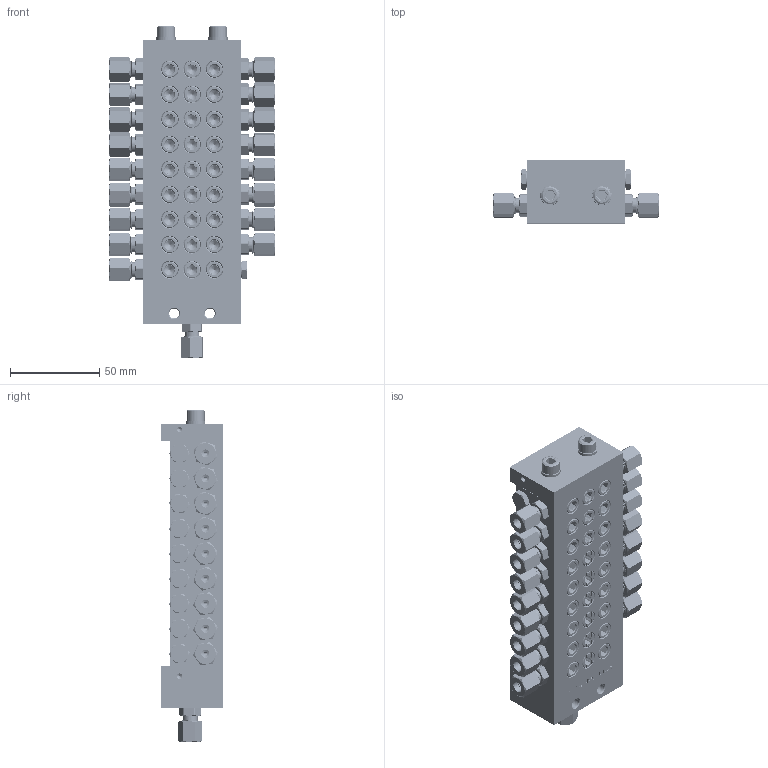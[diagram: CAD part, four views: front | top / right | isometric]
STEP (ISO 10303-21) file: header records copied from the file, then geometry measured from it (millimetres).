
FILE_DESCRIPTION (( 'STEP AP214' ), '1' );
FILE_NAME ('STW_XV_0143_17_0501_17_Auslässe.STEP', '2026-02-04T09:57:30', ( '' ), ( '' ), 'SwSTEP 2.0', 'SolidWorks 2022', '' );
FILE_SCHEMA (( 'AUTOMOTIVE_DESIGN' ));
Length unit declared in the file: millimetre
Products named in the file (15): 991214010601_Mutter; STW_XV_Verbindungsstopen; 991214010601_Schneidring; STW_XV_ENGANG; Verschlussstopfen_1_8_2; STW_XV_0143_17_0501_17_Auslässe; STW_XV_END; M6X65_DIN_912; XV_Mittelelement; Verschlussstopfen_1_8; 991214010601; STW_XV_MITTEL_1; U_Scheibe_6; 991214010601_Koerper; STW_XV_Kolbenanschlag
Assembly tree (58 placements, depth 3):
  STW_XV_0143_17_0501_17_Auslässe
    STW_XV_ENGANG
    STW_XV_MITTEL_1  x3
    STW_XV_END
    Verschlussstopfen_1_8_2  x6
    STW_XV_Kolbenanschlag  x6
    STW_XV_Verbindungsstopen  x3
    M6X65_DIN_912  x2
    U_Scheibe_6  x2
    991214010601  x18
      991214010601_Koerper
      991214010601_Schneidring
      991214010601_Mutter
    XV_Mittelelement  x6
      STW_XV_MITTEL_1
      STW_XV_Kolbenanschlag
      Verschlussstopfen_1_8_2
      STW_XV_Verbindungsstopen
    Verschlussstopfen_1_8
Bounding box: 92.76 x 35 x 185.68 mm (x, y, z)
Volume: 283329.9 mm3; surface area: 172160.6 mm2
Topology: 115 solids, 115 shells, 3615 faces, 9143 edges, 5866 vertices
Faces by surface type: plane 1621, cylinder 1121, cone 651, bspline 204, torus 18
Full cylindrical faces by diameter (mm): 2 x233, 3 x16, 4.5 x18, 5 x92, 5.5 x2, 5.9 x2, 6 x20, 6.2 x38, 6.4 x2, 6.5 x18, 7 x18, 7.4 x18, 7.67 x18, 8 x36, 8.3 x18, 8.4 x9, 8.6 x45, 9 x37, 9.7 x19, 9.73 x9, 9.8 x126, 10 x20, 11 x2, 15 x1
Entity records: 41522 total; most frequent: CARTESIAN_POINT 20646, ORIENTED_EDGE 2808, DIRECTION 2429, EDGE_CURVE 1404, VERTEX_POINT 997, EDGE_LOOP 925, AXIS2_PLACEMENT_3D 856, FACE_OUTER_BOUND 744
